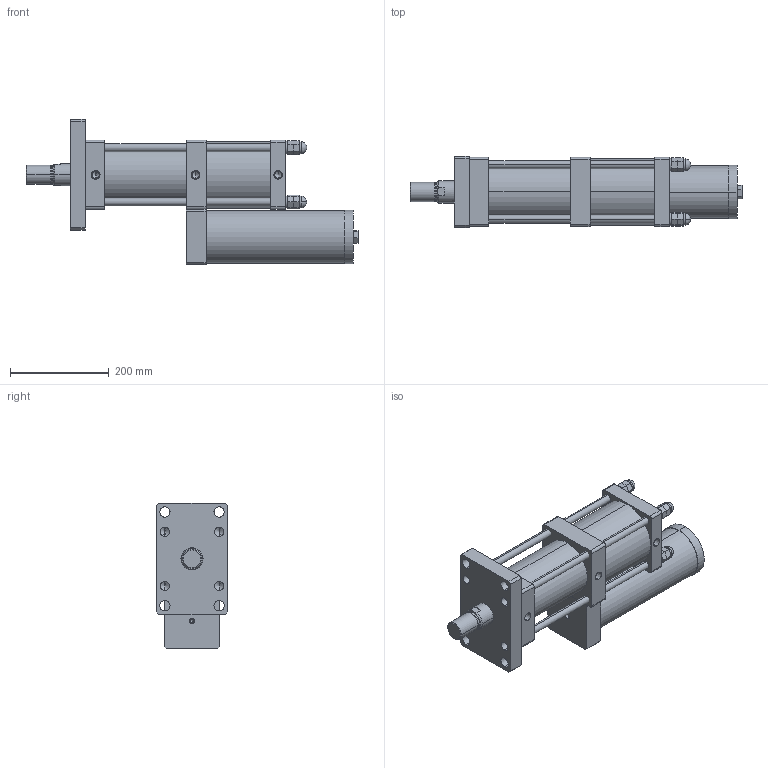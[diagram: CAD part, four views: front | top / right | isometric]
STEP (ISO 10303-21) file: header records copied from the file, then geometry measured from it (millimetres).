
FILE_DESCRIPTION (( 'STEP AP203' ), '1' );
FILE_NAME ('MPT-100-100-5-13T.STEP', '2016-03-28T10:18:29', ( 'WIN' ), ( '' ), 'SwSTEP 2.0', 'SolidWorks 2014', '' );
FILE_SCHEMA (( 'CONFIG_CONTROL_DESIGN' ));
Length unit declared in the file: millimetre
Products named in the file (1): MPT-100-100-5-13T
Bounding box: 673 x 145 x 294.5 mm (x, y, z)
Volume: 10140954.8 mm3; surface area: 671393.6 mm2
Topology: 13 solids, 13 shells, 400 faces, 980 edges, 555 vertices
Faces by surface type: plane 188, cylinder 80, torus 48, bspline 48, cone 36
Entity records: 12751 total; most frequent: CARTESIAN_POINT 3688, DIRECTION 1936, ORIENTED_EDGE 1812, EDGE_CURVE 906, AXIS2_PLACEMENT_3D 727, VERTEX_POINT 555, VECTOR 482, LINE 482
